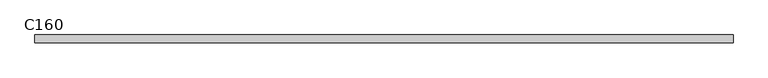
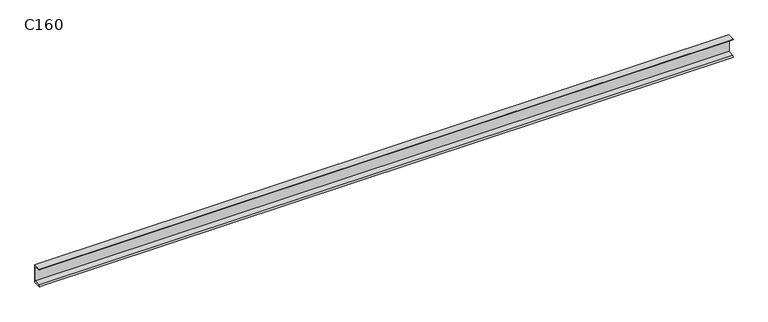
"""IFC4 building model written with IfcOpenShell, lengths in millimetres: beam geometry, RPLN C - Ceowniki normalne : C160."""

from ifc_helpers import new_model, si_unit, point, frame, frame_2d, origin, place, context, project, spatial, polyline, circle_curve, trimmed, segment, composite_curve, outline, extrude, source, transform, mapped, element, save


def c160_27ff9c8f(model_context):
    return source(origin(), model_context, "Body", "SweptSolid", [
        extrude(outline(composite_curve([segment(polyline([(18.4, 80.0), (18.4, -80.0), (-46.6, -80.0)]), True, "CONTINUOUS"), segment(trimmed(circle_curve(frame_2d((-36.1, -80.0)), 10.5), [point((-46.6, -80.0))], [point((-36.1, -69.5))], False, "CARTESIAN"), True, "CONTINUOUS"), segment(polyline([(-36.1, -69.5), (10.9, -62.0559313), (10.9, 62.0559313), (-36.1, 69.5)]), True, "CONTINUOUS"), segment(trimmed(circle_curve(frame_2d((-36.1, 80.0)), 10.5), [point((-36.1, 69.5))], [point((-46.6, 80.0))], False, "CARTESIAN"), True, "CONTINUOUS"), segment(polyline([(-46.6, 80.0), (18.4, 80.0)]), True, "CONTINUOUS")], self_intersect=False)), frame((-2917.3982353, 0.0, 0.0), z_axis=(1.0, 0.0, 0.0), x_axis=(0.0, 1.0, 0.0)), (0.0, 0.0, 1.0), 5910.1267431),
    ])


if __name__ == "__main__":
    model = new_model("IFC4")
    model_context = context("Model", 3, world=origin())
    ifc_project = project(units=[si_unit("LENGTHUNIT", "METRE", prefix="MILLI")], contexts=[model_context])
    site = spatial("IfcSite", under=ifc_project)
    building = spatial("IfcBuilding", under=site)
    placement = place(None, origin())
    c160_shape = c160_27ff9c8f(model_context)
    element("IfcBeam", 1, ObjectType="RPLN C - Ceowniki normalne : C160", at=placement, inside=building, context=model_context, shape_type="MappedRepresentation", body=[
        mapped(c160_shape, transform((0.0, 0.0, 0.0), x_axis=(1.0, 0.0, 0.0), y_axis=(0.0, 1.0, 0.0), z_axis=(0.0, 0.0, 1.0))),
    ])
    save(model, "model.ifc")
